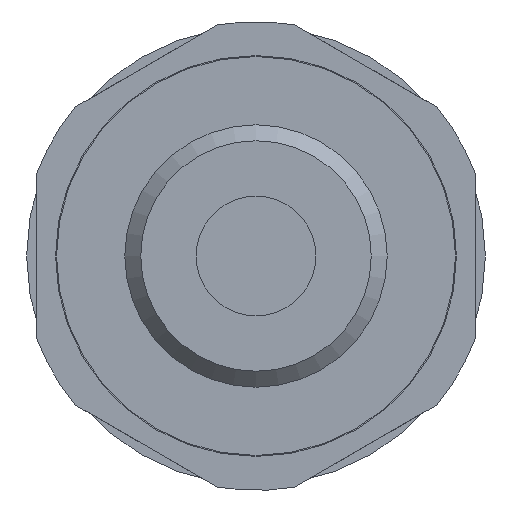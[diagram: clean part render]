
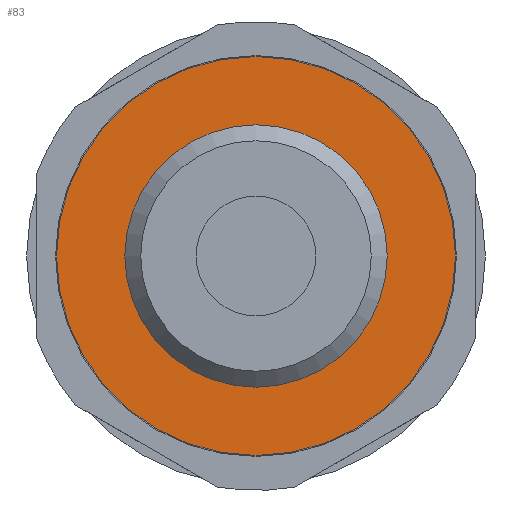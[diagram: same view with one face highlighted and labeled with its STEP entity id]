
A CAD part, front view. The second image highlights one B-rep face of the part: STEP entity #83.
In plain terms, the highlighted planar face has unit normal (0, -1, 0).
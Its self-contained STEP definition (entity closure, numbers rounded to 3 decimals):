
#83 = ADVANCED_FACE( '', ( #129, #130 ), #131, .F. );
#129 = FACE_BOUND( '', #214, .T. );
#130 = FACE_OUTER_BOUND( '', #215, .T. );
#131 = PLANE( '', #216 );
#214 = EDGE_LOOP( '', ( #324 ) );
#215 = EDGE_LOOP( '', ( #325 ) );
#216 = AXIS2_PLACEMENT_3D( '', #326, #327, #328 );
#324 = ORIENTED_EDGE( '', *, *, #504, .F. );
#325 = ORIENTED_EDGE( '', *, *, #505, .T. );
#326 = CARTESIAN_POINT( '', ( 10., 0., 0. ) );
#327 = DIRECTION( '', ( 0., 1., 0. ) );
#328 = DIRECTION( '', ( 0., 0., 1. ) );
#504 = EDGE_CURVE( '', #575, #575, #576, .T. );
#505 = EDGE_CURVE( '', #577, #577, #578, .T. );
#575 = VERTEX_POINT( '', #695 );
#576 = CIRCLE( '', #696, 6.579 );
#577 = VERTEX_POINT( '', #697 );
#578 = CIRCLE( '', #698, 10. );
#695 = CARTESIAN_POINT( '', ( 0., 0., -6.579 ) );
#696 = AXIS2_PLACEMENT_3D( '', #804, #805, #806 );
#697 = CARTESIAN_POINT( '', ( 0., 0., -10. ) );
#698 = AXIS2_PLACEMENT_3D( '', #807, #808, #809 );
#804 = CARTESIAN_POINT( '', ( 0., 0., 0. ) );
#805 = DIRECTION( '', ( 0., -1., 0. ) );
#806 = DIRECTION( '', ( 0., 0., -1. ) );
#807 = CARTESIAN_POINT( '', ( 0., 0., 0. ) );
#808 = DIRECTION( '', ( 0., -1., 0. ) );
#809 = DIRECTION( '', ( 0., 0., -1. ) );
